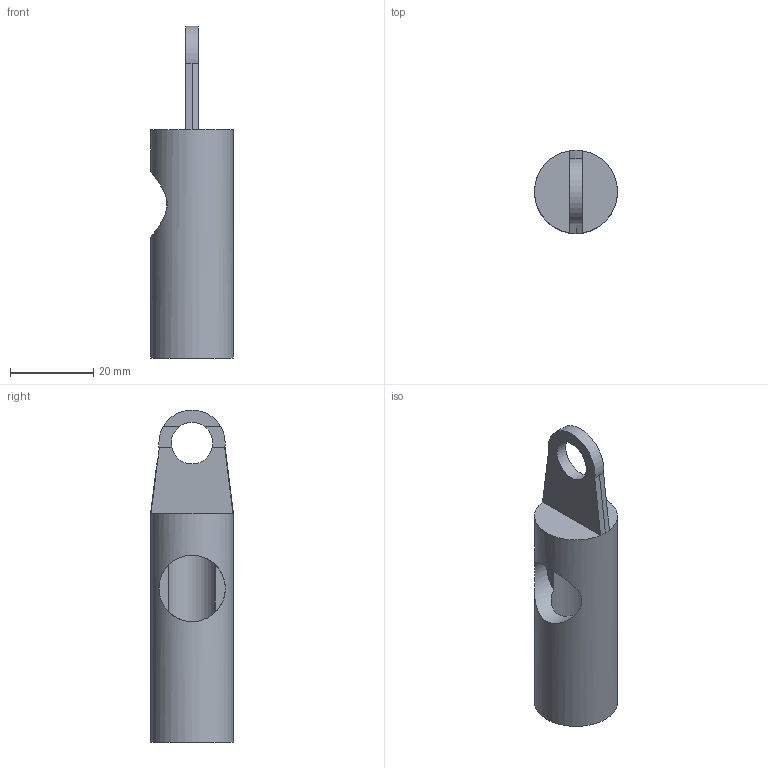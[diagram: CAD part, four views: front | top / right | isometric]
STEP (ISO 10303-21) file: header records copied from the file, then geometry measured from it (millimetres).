
FILE_DESCRIPTION(('FreeCAD Model'),'2;1');
FILE_NAME('C:/Users/FCALL_2013/Downloads/TFT28_enclosure/tigeshort.step' ,'2022-06-19T10:05:07',('Author'),(''), 'Open CASCADE STEP processor 7.3','FreeCAD','Unknown');
FILE_SCHEMA(('AUTOMOTIVE_DESIGN { 1 0 10303 214 1 1 1 1 }'));
Length unit declared in the file: millimetre
Products named in the file (1): Cut
Bounding box: 20 x 20 x 80 mm (x, y, z)
Volume: 12002.5 mm3; surface area: 6554.8 mm2
Topology: 1 solids, 1 shells, 25 faces, 68 edges, 44 vertices
Faces by surface type: plane 16, cylinder 6, cone 3
Full cylindrical faces by diameter (mm): 10 x1, 12 x1, 16 x1, 20 x1
Entity records: 3114 total; most frequent: CARTESIAN_POINT 1555, DIRECTION 268, ORIENTED_EDGE 136, PCURVE 136, DEFINITIONAL_REPRESENTATION 136, LINE 96, VECTOR 96, EDGE_CURVE 68
